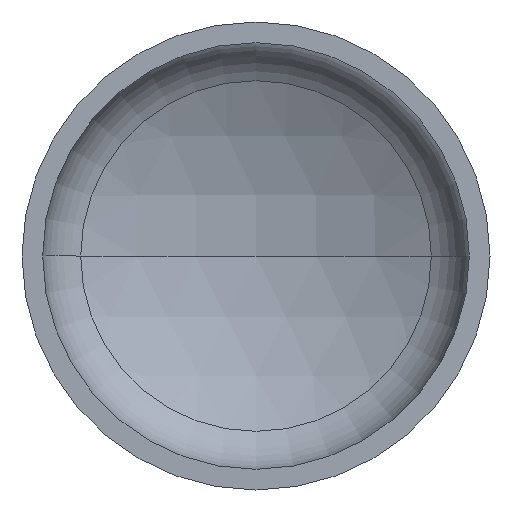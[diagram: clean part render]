
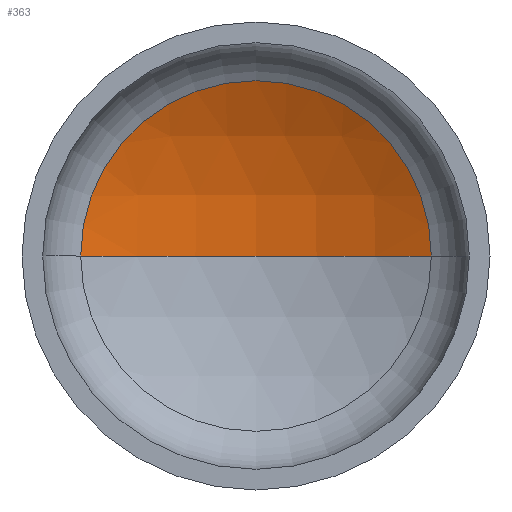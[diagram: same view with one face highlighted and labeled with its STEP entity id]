
A CAD part, front view. The second image highlights one B-rep face of the part: STEP entity #363.
In plain terms, the highlighted spherical face has radius 325 mm.
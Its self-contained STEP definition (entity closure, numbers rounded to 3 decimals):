
#17 = VERTEX_POINT ( 'NONE', #278 ) ;
#26 = EDGE_LOOP ( 'NONE', ( #149, #42, #121 ) ) ;
#33 = AXIS2_PLACEMENT_3D ( 'NONE', #269, #241, #236 ) ;
#42 = ORIENTED_EDGE ( 'NONE', *, *, #153, .T. ) ;
#43 = AXIS2_PLACEMENT_3D ( 'NONE', #198, #200, #221 ) ;
#45 = AXIS2_PLACEMENT_3D ( 'NONE', #298, #139, #322 ) ;
#66 = VERTEX_POINT ( 'NONE', #249 ) ;
#76 = CARTESIAN_POINT ( 'NONE',  ( 0., -177.359, 0. ) ) ;
#112 = EDGE_CURVE ( 'NONE', #126, #66, #280, .T. ) ;
#117 = CIRCLE ( 'NONE', #33, 325. ) ;
#121 = ORIENTED_EDGE ( 'NONE', *, *, #112, .T. ) ;
#126 = VERTEX_POINT ( 'NONE', #161 ) ;
#139 = DIRECTION ( 'NONE',  ( 0., -1., 0. ) ) ;
#149 = ORIENTED_EDGE ( 'NONE', *, *, #174, .F. ) ;
#153 = EDGE_CURVE ( 'NONE', #17, #126, #395, .T. ) ;
#161 = CARTESIAN_POINT ( 'NONE',  ( 152.243, 109.777, 0. ) ) ;
#174 = EDGE_CURVE ( 'NONE', #17, #66, #117, .T. ) ;
#176 = DIRECTION ( 'NONE',  ( 0., 0., -1. ) ) ;
#198 = CARTESIAN_POINT ( 'NONE',  ( 0., -177.359, 0. ) ) ;
#200 = DIRECTION ( 'NONE',  ( 0., 0., -1. ) ) ;
#214 = DIRECTION ( 'NONE',  ( -1., 0., 0. ) ) ;
#221 = DIRECTION ( 'NONE',  ( -1., 0., 0. ) ) ;
#236 = DIRECTION ( 'NONE',  ( 1., 0., 0. ) ) ;
#241 = DIRECTION ( 'NONE',  ( 0., 0., 1. ) ) ;
#243 = SPHERICAL_SURFACE ( 'NONE', #404, 325. ) ;
#249 = CARTESIAN_POINT ( 'NONE',  ( -152.243, 109.777, 0. ) ) ;
#269 = CARTESIAN_POINT ( 'NONE',  ( 0., -177.359, 0. ) ) ;
#278 = CARTESIAN_POINT ( 'NONE',  ( 0., 147.641, 0. ) ) ;
#280 = CIRCLE ( 'NONE', #45, 152.243 ) ;
#298 = CARTESIAN_POINT ( 'NONE',  ( 0., 109.777, 0. ) ) ;
#303 = FACE_OUTER_BOUND ( 'NONE', #26, .T. ) ;
#322 = DIRECTION ( 'NONE',  ( 1., 0., 0. ) ) ;
#363 = ADVANCED_FACE ( 'NONE', ( #303 ), #243, .F. ) ;
#395 = CIRCLE ( 'NONE', #43, 325. ) ;
#404 = AXIS2_PLACEMENT_3D ( 'NONE', #76, #176, #214 ) ;
